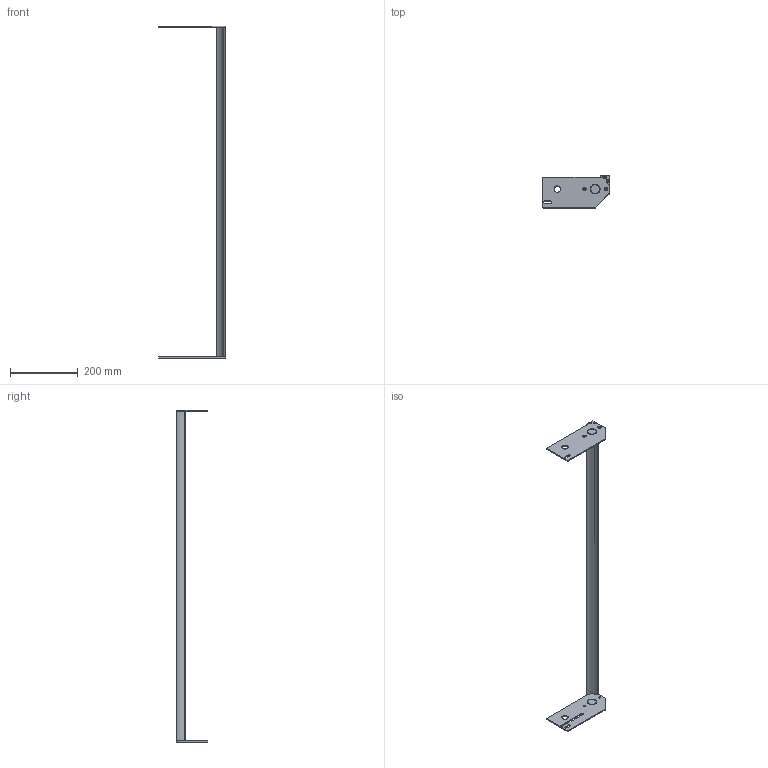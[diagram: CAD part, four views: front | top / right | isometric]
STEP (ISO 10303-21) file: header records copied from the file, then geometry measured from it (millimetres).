
FILE_DESCRIPTION((''),'2;1');
FILE_NAME('351040-38_ASM','2023-03-15T',('jenni.wallner'),(''),'PRO/ENGINEER BY PARAMETRIC TECHNOLOGY CORPORATION, 2012420','PRO/ENGINEER BY PARAMETRIC TECHNOLOGY CORPORATION, 2012420','');
FILE_SCHEMA(('CONFIG_CONTROL_DESIGN'));
Length unit declared in the file: inch
Products named in the file (6): 350539-WW_350539-38; 9304XXM_930410M; 350538; 350537; ASM0001_ASM; 351040-38_ASM
Assembly tree (8 placements, depth 3):
  351040-38_ASM
    ASM0001_ASM
      350539-WW_350539-38
      9304XXM_930410M  x4
      350538
      350537
Bounding box: 196.06 x 92.74 x 977.54 mm (x, y, z)
Volume: 373409.2 mm3; surface area: 177095.4 mm2
Topology: 7 solids, 7 shells, 216 faces, 536 edges, 334 vertices
Faces by surface type: cylinder 80, plane 76, cone 60
Entity records: 4970 total; most frequent: CARTESIAN_POINT 906, DIRECTION 885, ORIENTED_EDGE 790, EDGE_CURVE 395, AXIS2_PLACEMENT_3D 339, VERTEX_POINT 256, VECTOR 207, LINE 207
